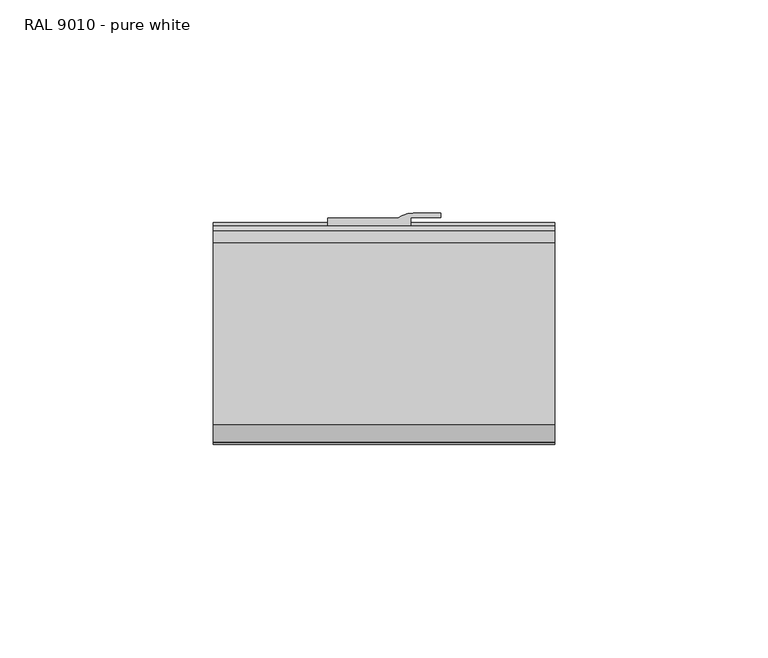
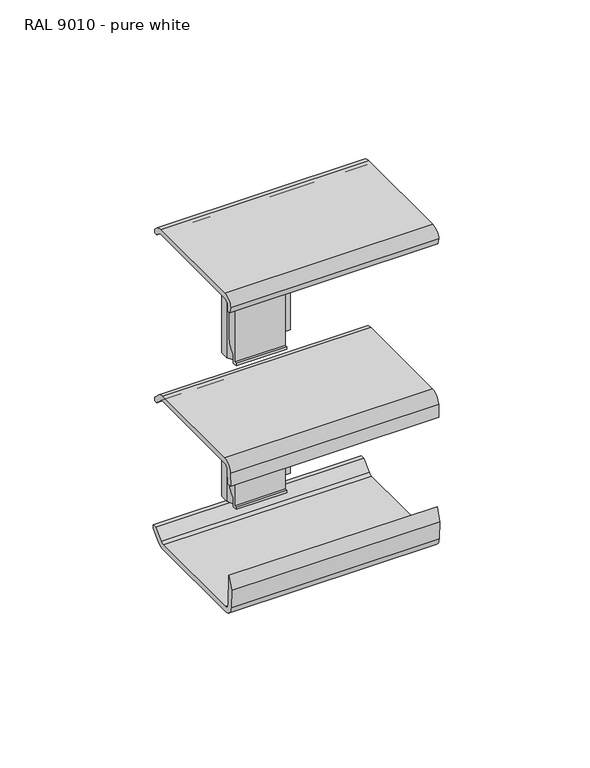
"""IFC4 building model written with IfcOpenShell, lengths in millimetres: cable carrier fitting geometry, Electrical_Installations_Hager_GBD-Joint-Cover-And-Coupling-Piece-Flat : RAL 9010 - pure white."""

from ifc_helpers import new_model, si_unit, point, frame, frame_2d, origin, place, context, project, spatial, polyline, circle_curve, trimmed, segment, composite_curve, outline, extrude, source, transform, mapped, element, save


def ral_9010_pure_white_964dc75e(model_context):
    return source(origin(), model_context, "Body", "SweptSolid", [
        extrude(outline(composite_curve([segment(polyline([(19.4940065, -13.121875), (19.4940065, -12.321875), (21.4940065, -12.321875), (21.4940065, -16.2456204)]), True, "CONTINUOUS"), segment(trimmed(circle_curve(frame_2d((18.0216088, -21.3155883)), 6.1450891), [point((21.4940065, -16.2456204))], [point((24.1502565, -20.8663694))], False, "CARTESIAN"), True, "CONTINUOUS"), segment(polyline([(24.1502565, -20.8663694), (24.1502565, -47.9515165)]), True, "CONTINUOUS"), segment(trimmed(circle_curve(frame_2d((19.0199211, -47.9515165)), 5.1303355), [point((24.1502565, -47.9515165))], [point((21.4940065, -52.4458733))], False, "CARTESIAN"), True, "CONTINUOUS"), segment(polyline([(21.4940065, -52.4458733), (21.4940065, -56.1625), (19.727375, -56.1625), (19.727375, -55.157314), (20.6940065, -55.157314), (20.6940065, -13.121875), (19.4940065, -13.121875)]), True, "CONTINUOUS")], self_intersect=False)), frame((-0.7125, 0.0, 0.0), z_axis=(1.0, 0.0, 0.0), x_axis=(0.0, 1.0, 0.0)), (0.0, 0.0, 1.0), 19.5),
        extrude(outline(composite_curve([segment(polyline([(-0.7125, 29.3502565), (15.6888516, 29.3502565)]), True, "CONTINUOUS"), segment(trimmed(circle_curve(frame_2d((19.3875, 24.2502565)), 6.3), [point((15.6888516, 29.3502565))], [point((19.3875, 30.5502565))], False, "CARTESIAN"), True, "CONTINUOUS"), segment(polyline([(19.3875, 30.5502565), (25.7875, 30.5502565), (25.7875, 29.5502565), (18.7875, 29.5502565), (18.7875, 26.0502565), (17.5173294, 23.8502565), (16.234474, 23.8502565), (16.234474, 26.0502565), (1.791584, 26.0502565), (1.791584, 23.8502565), (0.5576706, 23.8502565), (-0.7125, 26.0502565), (-0.7125, 29.3502565)]), True, "CONTINUOUS")], self_intersect=False)), frame((0.0, 0.0, -56.7), z_axis=(0.0, 0.0, 1.0), x_axis=(1.0, 0.0, 0.0)), (0.0, 0.0, 1.0), 45.0),
        extrude(outline(composite_curve([segment(polyline([(19.4940065, 45.278125), (19.4940065, 46.078125), (21.4940065, 46.078125), (21.4940065, 42.1543796)]), True, "CONTINUOUS"), segment(trimmed(circle_curve(frame_2d((18.0216088, 37.0844117)), 6.1450891), [point((21.4940065, 42.1543796))], [point((24.1502565, 37.5336306))], False, "CARTESIAN"), True, "CONTINUOUS"), segment(polyline([(24.1502565, 37.5336306), (24.1502565, 10.4484835)]), True, "CONTINUOUS"), segment(trimmed(circle_curve(frame_2d((19.0199211, 10.4484835)), 5.1303355), [point((24.1502565, 10.4484835))], [point((21.4940065, 5.9541267))], False, "CARTESIAN"), True, "CONTINUOUS"), segment(polyline([(21.4940065, 5.9541267), (21.4940065, 2.2375), (19.727375, 2.2375), (19.727375, 3.242686), (20.6940065, 3.242686), (20.6940065, 45.278125), (19.4940065, 45.278125)]), True, "CONTINUOUS")], self_intersect=False)), frame((-0.7125, 0.0, 0.0), z_axis=(1.0, 0.0, 0.0), x_axis=(0.0, 1.0, 0.0)), (0.0, 0.0, 1.0), 19.5),
        extrude(outline(composite_curve([segment(polyline([(-0.7125, 29.3502565), (15.6888516, 29.3502565)]), True, "CONTINUOUS"), segment(trimmed(circle_curve(frame_2d((19.3875, 24.2502565)), 6.3), [point((15.6888516, 29.3502565))], [point((19.3875, 30.5502565))], False, "CARTESIAN"), True, "CONTINUOUS"), segment(polyline([(19.3875, 30.5502565), (25.7875, 30.5502565), (25.7875, 29.5502565), (18.7875, 29.5502565), (18.7875, 26.0502565), (17.5173294, 23.8502565), (16.234474, 23.8502565), (16.234474, 26.0502565), (1.791584, 26.0502565), (1.791584, 23.8502565), (0.5576706, 23.8502565), (-0.7125, 26.0502565), (-0.7125, 29.3502565)]), True, "CONTINUOUS")], self_intersect=False)), frame((0.0, 0.0, 1.7), z_axis=(0.0, 0.0, 1.0), x_axis=(1.0, 0.0, 0.0)), (0.0, 0.0, 1.0), 45.0),
        extrude(outline(composite_curve([segment(trimmed(circle_curve(frame_2d((-18.8633998, -6.3705402)), 2.0393871), [point((-18.8633998, -4.331153))], [point((-20.899992, -6.2638069))], True, "CARTESIAN"), True, "CONTINUOUS"), segment(polyline([(-20.899992, -6.2638069), (-21.1703996, -11.4234908), (-23.1676586, -11.3188188), (-22.8959309, -6.1339451)]), True, "CONTINUOUS"), segment(trimmed(circle_curve(frame_2d((-18.8886242, -6.3439592)), 4.0128062), [point((-22.8959309, -6.1339451))], [point((-18.8886242, -2.331153))], False, "CARTESIAN"), True, "CONTINUOUS"), segment(polyline([(-18.8886242, -2.331153), (22.3397777, -2.331153)]), True, "CONTINUOUS"), segment(trimmed(circle_curve(frame_2d((22.3397777, -6.0464007)), 3.7152477), [point((22.3397777, -2.331153))], [point((24.9668545, -3.4193239))], False, "CARTESIAN"), True, "CONTINUOUS"), segment(polyline([(24.9668545, -3.4193239), (27.2562917, -5.7087611)]), True, "CONTINUOUS"), segment(trimmed(circle_curve(frame_2d((26.5465978, -6.418455)), 1.0036587), [point((27.2562917, -5.7087611))], [point((27.5502565, -6.418455))], False, "CARTESIAN"), True, "CONTINUOUS"), segment(polyline([(27.5502565, -6.418455), (27.5502565, -7.331153), (26.0502565, -7.331153), (23.6221118, -4.9030083)]), True, "CONTINUOUS"), segment(trimmed(circle_curve(frame_2d((22.241531, -6.2835892)), 1.9524362), [point((23.6221118, -4.9030083))], [point((22.241531, -4.331153))], True, "CARTESIAN"), True, "CONTINUOUS"), segment(polyline([(22.241531, -4.331153), (-18.8633998, -4.331153)]), True, "CONTINUOUS")], self_intersect=False)), frame((-27.5, 0.0, 0.0), z_axis=(1.0, 0.0, 0.0), x_axis=(0.0, 1.0, 0.0)), (0.0, 0.0, 1.0), 80.0),
        extrude(outline(composite_curve([segment(trimmed(circle_curve(frame_2d((23.5218294, 60.7)), 2.0), [point((24.936043, 62.1142136))], [point((23.5218294, 62.7))], True, "CARTESIAN"), True, "CONTINUOUS"), segment(polyline([(23.5218294, 62.7), (-19.1007768, 62.7)]), True, "CONTINUOUS"), segment(trimmed(circle_curve(frame_2d((-19.1007768, 60.6971035)), 2.0028965), [point((-19.1007768, 62.7))], [point((-21.1036733, 60.6971035))], True, "CARTESIAN"), True, "CONTINUOUS"), segment(polyline([(-21.1036733, 60.6971035), (-21.2133917, 58.6035509), (-22.3130457, 58.6611813), (-23.0757368, 61.1159668)]), True, "CONTINUOUS"), segment(trimmed(circle_curve(frame_2d((-19.1163293, 60.720935)), 3.979065), [point((-23.0757368, 61.1159668))], [point((-19.1163293, 64.7))], False, "CARTESIAN"), True, "CONTINUOUS"), segment(polyline([(-19.1163293, 64.7), (23.5218294, 64.7)]), True, "CONTINUOUS"), segment(trimmed(circle_curve(frame_2d((23.5218294, 60.7)), 4.0), [point((23.5218294, 64.7))], [point((26.3502565, 63.5284271))], False, "CARTESIAN"), True, "CONTINUOUS"), segment(polyline([(26.3502565, 63.5284271), (27.5502565, 62.3284271), (27.5502565, 61.0), (26.0502565, 61.0), (24.936043, 62.1142136)]), True, "CONTINUOUS")], self_intersect=False)), frame((-27.5, 0.0, 0.0), z_axis=(1.0, 0.0, 0.0), x_axis=(0.0, 1.0, 0.0)), (0.0, 0.0, 1.0), 80.0),
        extrude(outline(composite_curve([segment(polyline([(26.903365, -58.3), (28.403365, -58.3), (28.403365, -59.6284271), (24.703365, -63.3284271)]), True, "CONTINUOUS"), segment(trimmed(circle_curve(frame_2d((21.8749378, -60.5)), 4.0), [point((24.703365, -63.3284271))], [point((21.8749378, -64.5))], False, "CARTESIAN"), True, "CONTINUOUS"), segment(polyline([(21.8749378, -64.5), (-19.4152919, -64.5)]), True, "CONTINUOUS"), segment(trimmed(circle_curve(frame_2d((-19.4152919, -60.6150555)), 3.8849445), [point((-19.4152919, -64.5))], [point((-23.3002364, -60.6150555))], False, "CARTESIAN"), True, "CONTINUOUS"), segment(polyline([(-23.3002364, -60.6150555), (-23.6789386, -53.3889857), (-21.9407516, -48.3409241), (-21.3036733, -60.4971035)]), True, "CONTINUOUS"), segment(trimmed(circle_curve(frame_2d((-19.3007768, -60.4971035)), 2.0028965), [point((-21.3036733, -60.4971035))], [point((-19.3007768, -62.5))], True, "CARTESIAN"), True, "CONTINUOUS"), segment(polyline([(-19.3007768, -62.5), (21.8749378, -62.5)]), True, "CONTINUOUS"), segment(trimmed(circle_curve(frame_2d((21.8749378, -60.5)), 2.0), [point((21.8749378, -62.5))], [point((23.2891514, -61.9142136))], True, "CARTESIAN"), True, "CONTINUOUS"), segment(polyline([(23.2891514, -61.9142136), (26.903365, -58.3)]), True, "CONTINUOUS")], self_intersect=False)), frame((-27.5, 0.0, 0.0), z_axis=(1.0, 0.0, 0.0), x_axis=(0.0, 1.0, 0.0)), (0.0, 0.0, 1.0), 80.0),
    ])


if __name__ == "__main__":
    model = new_model("IFC4")
    model_context = context("Model", 3, world=origin())
    ifc_project = project(units=[si_unit("LENGTHUNIT", "METRE", prefix="MILLI")], contexts=[model_context])
    site = spatial("IfcSite", under=ifc_project)
    building = spatial("IfcBuilding", under=site)
    placement = place(None, origin())
    ral_9010_pure_white_shape = ral_9010_pure_white_964dc75e(model_context)
    element("IfcCableCarrierFitting", 1, ObjectType="Electrical_Installations_Hager_GBD-Joint-Cover-And-Coupling-Piece-Flat : RAL 9010 - pure white", at=placement, inside=building, context=model_context, shape_type="MappedRepresentation", body=[
        mapped(ral_9010_pure_white_shape, transform((0.0, 0.0, 0.0), x_axis=(1.0, 0.0, 0.0), y_axis=(0.0, 1.0, 0.0), z_axis=(0.0, 0.0, 1.0))),
    ])
    save(model, "model.ifc")
